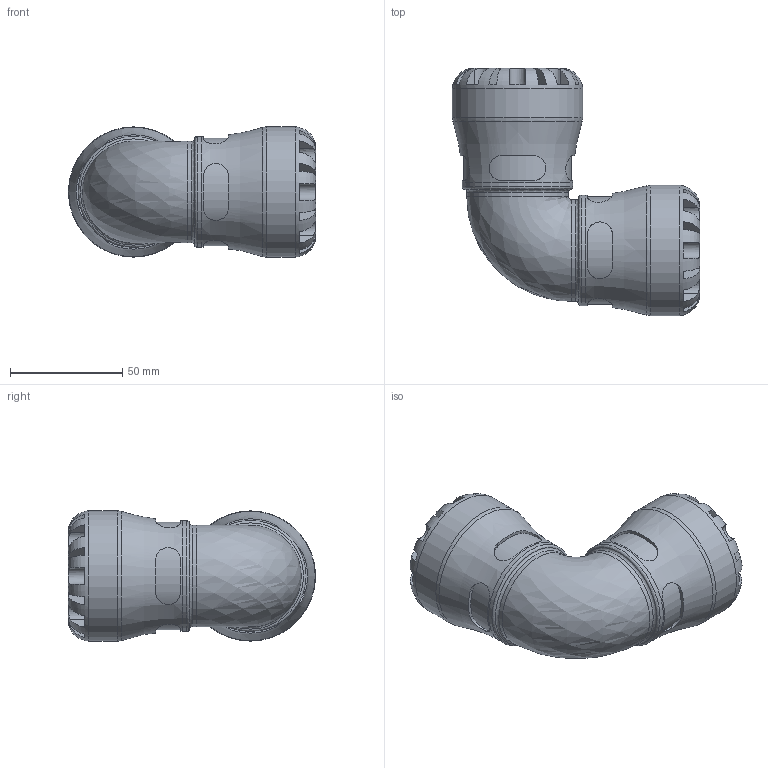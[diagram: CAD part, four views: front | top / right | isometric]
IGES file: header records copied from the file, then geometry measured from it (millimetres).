
Global section: file name: 100500032_190400032.ipt; native system: Autodesk Inventor 2015; preprocessor: unknown; author: KIM; date: 20170122.114431; units: millimetre
Bounding box: 110 x 110 x 58 mm (x, y, z)
Volume: 197074.5 mm3; surface area: 45838.7 mm2
Topology: 1 solids, 1 shells, 196 faces, 513 edges, 327 vertices
Faces by surface type: plane 116, revolution 50, cylinder 30
Full cylindrical faces by diameter (mm): 45.24 x2, 49.3 x2, 58 x2
